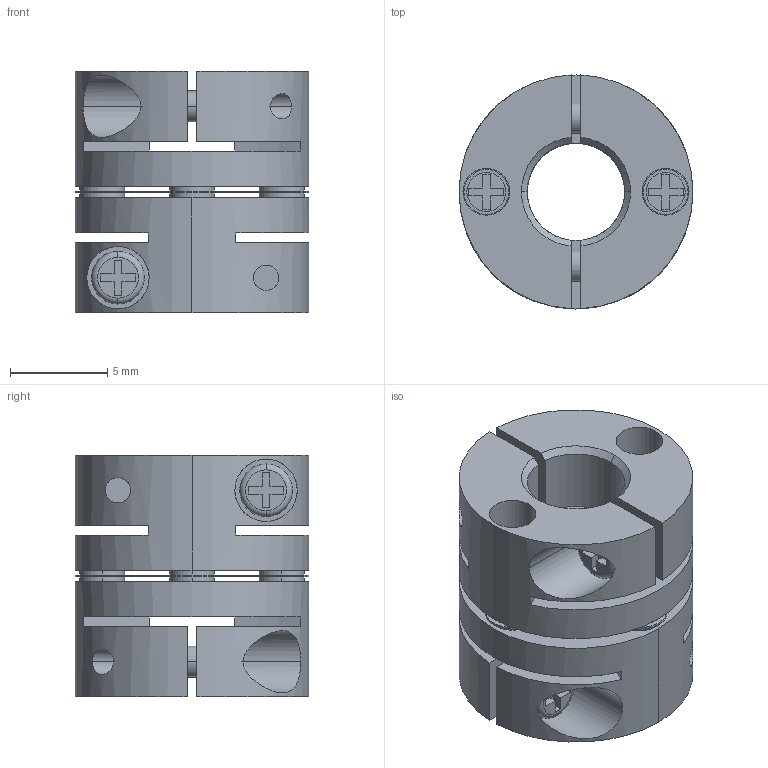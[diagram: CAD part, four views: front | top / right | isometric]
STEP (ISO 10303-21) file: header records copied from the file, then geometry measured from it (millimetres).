
FILE_DESCRIPTION((''),'2;1');
FILE_NAME('LAS-12C-5×5.stp','2011-08-11T12:02:54',(''),(''),'AutoCAD STEP 2000i','AutoCAD 2000i',', , ');
FILE_SCHEMA(('CONFIG_CONTROL_DESIGN'));
Length unit declared in the file: millimetre
Products named in the file (7): LAS-12C-5×5; 忣兜1; LA-1202-D05-1; LA-1202-D05; LA-1202-D03-1; LA-1202-D03; LAS12-ITA
Assembly tree (6 placements, depth 2):
  LAS-12C-5×5
    忣兜1
    LA-1202-D05-1
    LA-1202-D05
    LA-1202-D03-1
    LA-1202-D03
    LAS12-ITA
Bounding box: 12 x 12 x 12.4 mm (x, y, z)
Volume: 838.9 mm3; surface area: 1738.7 mm2
Topology: 1 solids, 1 shells, 264 faces, 692 edges, 460 vertices
Faces by surface type: plane 156, cylinder 88, cone 12, torus 8
Entity records: 8751 total; most frequent: CARTESIAN_POINT 1823, DIRECTION 1442, ORIENTED_EDGE 1384, EDGE_CURVE 692, AXIS2_PLACEMENT_3D 503, VERTEX_POINT 460, VECTOR 436, LINE 436
